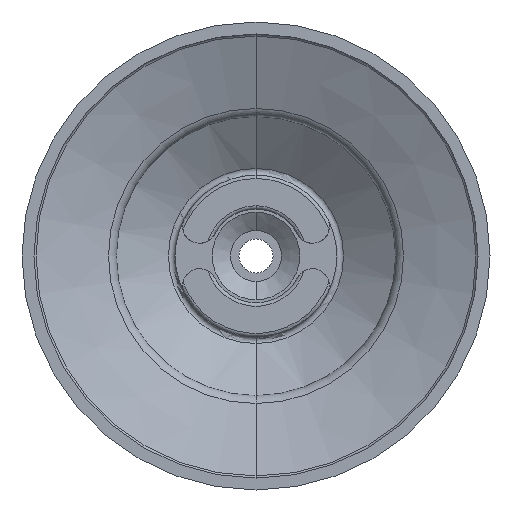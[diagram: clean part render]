
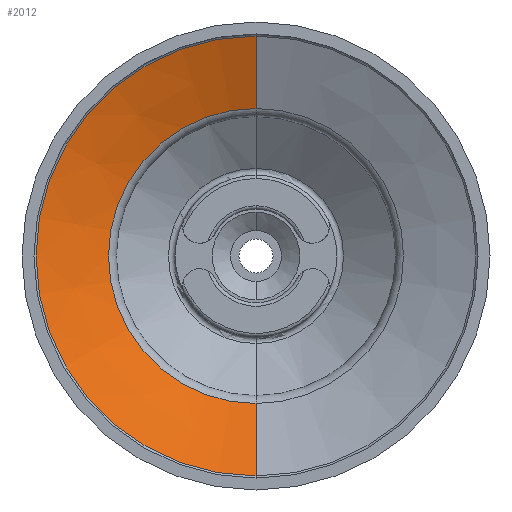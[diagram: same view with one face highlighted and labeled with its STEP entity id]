
A CAD part, front view. The second image highlights one B-rep face of the part: STEP entity #2012.
In plain terms, the highlighted conical face has half-angle 68 degrees and reference radius 17.338 mm.
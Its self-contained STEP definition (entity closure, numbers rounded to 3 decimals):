
#11 = VERTEX_POINT ( 'NONE', #1336 ) ;
#39 = EDGE_CURVE ( 'NONE', #2818, #11, #1092, .T. ) ;
#113 = VERTEX_POINT ( 'NONE', #1350 ) ;
#117 = DIRECTION ( 'NONE',  ( 0., 0., -1. ) ) ;
#118 = CIRCLE ( 'NONE', #2722, 25.85 ) ;
#312 = CIRCLE ( 'NONE', #1578, 17.338 ) ;
#482 = ORIENTED_EDGE ( 'NONE', *, *, #39, .F. ) ;
#505 = VERTEX_POINT ( 'NONE', #852 ) ;
#533 = CARTESIAN_POINT ( 'NONE',  ( 0., 3.919, -17.338 ) ) ;
#593 = VECTOR ( 'NONE', #2210, 1000. ) ;
#615 = ORIENTED_EDGE ( 'NONE', *, *, #1310, .F. ) ;
#852 = CARTESIAN_POINT ( 'NONE',  ( 0., 0.48, 25.85 ) ) ;
#1092 = LINE ( 'NONE', #1318, #593 ) ;
#1101 = CARTESIAN_POINT ( 'NONE',  ( 0., 0.48, 0. ) ) ;
#1135 = EDGE_CURVE ( 'NONE', #2818, #113, #312, .T. ) ;
#1291 = CARTESIAN_POINT ( 'NONE',  ( 0., 3.919, 0. ) ) ;
#1310 = EDGE_CURVE ( 'NONE', #11, #505, #118, .T. ) ;
#1318 = CARTESIAN_POINT ( 'NONE',  ( 0., 3.919, -17.338 ) ) ;
#1336 = CARTESIAN_POINT ( 'NONE',  ( 0., 0.48, -25.85 ) ) ;
#1350 = CARTESIAN_POINT ( 'NONE',  ( 0., 3.919, 17.338 ) ) ;
#1473 = DIRECTION ( 'NONE',  ( 0., 1., 0. ) ) ;
#1578 = AXIS2_PLACEMENT_3D ( 'NONE', #1675, #1473, #1704 ) ;
#1661 = DIRECTION ( 'NONE',  ( 0., -0.375, 0.927 ) ) ;
#1675 = CARTESIAN_POINT ( 'NONE',  ( 0., 3.919, 0. ) ) ;
#1704 = DIRECTION ( 'NONE',  ( 0., 0., 1. ) ) ;
#1749 = DIRECTION ( 'NONE',  ( 0., 0., 1. ) ) ;
#1890 = VECTOR ( 'NONE', #1661, 1000. ) ;
#1893 = LINE ( 'NONE', #2834, #1890 ) ;
#1927 = FACE_OUTER_BOUND ( 'NONE', #2808, .T. ) ;
#1941 = EDGE_CURVE ( 'NONE', #113, #505, #1893, .T. ) ;
#2012 = ADVANCED_FACE ( 'NONE', ( #1927 ), #2047, .F. ) ;
#2047 = CONICAL_SURFACE ( 'NONE', #2986, 17.338, 1.187 ) ;
#2127 = ORIENTED_EDGE ( 'NONE', *, *, #1135, .T. ) ;
#2210 = DIRECTION ( 'NONE',  ( 0., -0.375, -0.927 ) ) ;
#2333 = ORIENTED_EDGE ( 'NONE', *, *, #1941, .T. ) ;
#2722 = AXIS2_PLACEMENT_3D ( 'NONE', #1101, #2958, #1749 ) ;
#2808 = EDGE_LOOP ( 'NONE', ( #2127, #2333, #615, #482 ) ) ;
#2818 = VERTEX_POINT ( 'NONE', #533 ) ;
#2834 = CARTESIAN_POINT ( 'NONE',  ( 0., 3.919, 17.338 ) ) ;
#2866 = DIRECTION ( 'NONE',  ( 0., -1., 0. ) ) ;
#2958 = DIRECTION ( 'NONE',  ( 0., 1., 0. ) ) ;
#2986 = AXIS2_PLACEMENT_3D ( 'NONE', #1291, #2866, #117 ) ;
